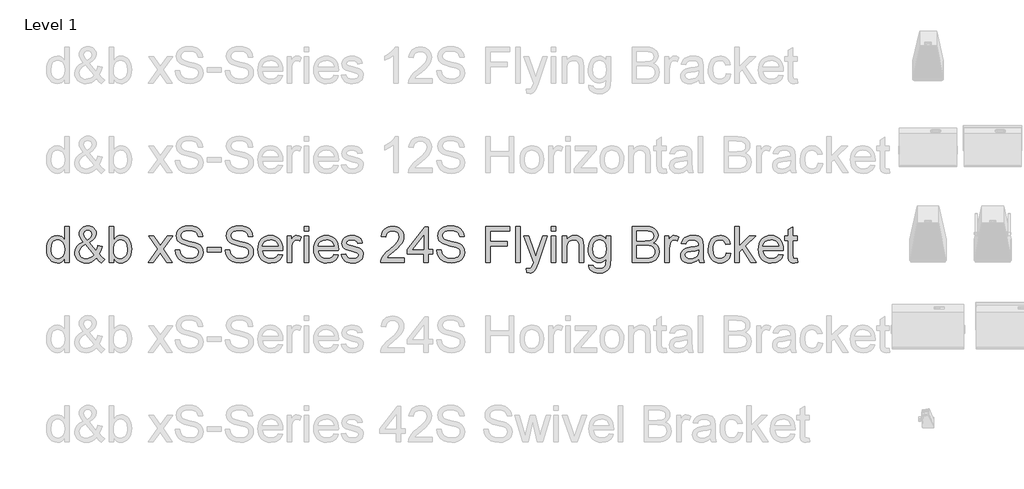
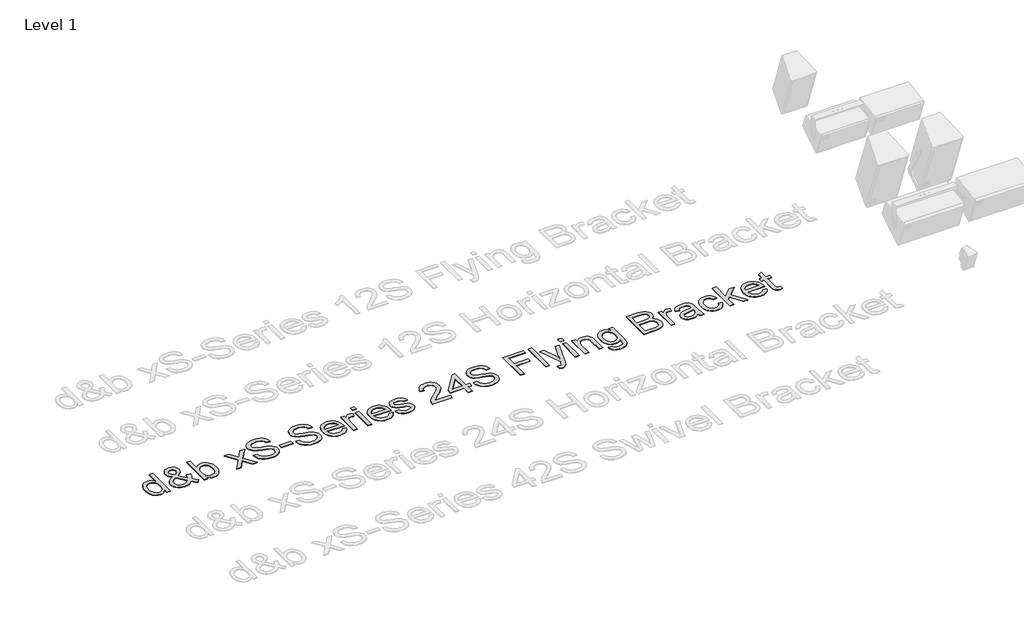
# One storey, part 32 of 55: 1 proxy.
"""IFC4 building model written with IfcOpenShell, lengths in millimetres."""

from ifc_helpers import new_model, si_unit, origin, origin_with_axes, place, context, project, spatial, polyline, outline, extrude, element, save

model = new_model("IFC4")

# Units and contexts
model_context = context("Model", 3, world=origin())
ifc_project = project(units=[si_unit("LENGTHUNIT", "METRE", prefix="MILLI")], contexts=[model_context])

# Site, building, storey
site = spatial("IfcSite", under=ifc_project)
building = spatial("IfcBuilding", under=site)
storey = spatial("IfcBuildingStorey", under=building, Name="Level 1", Elevation=0.0)

# Proxy
placement = place(None, origin())
element("IfcBuildingElementProxy", 1, Name="400mm Arial", ObjectType="400mm Arial", at=placement, inside=storey, context=model_context, shape_type="SweptSolid", body=[
    extrude(outline(polyline([(-20879.8211974, -3648.6945164), (-20879.8211974, -3601.3113154), (-20894.8491769, -3624.7883181), (-20913.0532043, -3641.5576057), (-20934.4332796, -3651.6191783), (-20958.9894028, -3654.9730358), (-20991.4611202, -3650.1169935), (-21021.1859854, -3635.5488665), (-21046.3491139, -3612.2864616), (-21065.1356211, -3581.3475858), (-21076.8342686, -3543.9830379), (-21080.7338177, -3501.4436165), (-21077.1408369, -3459.4314926), (-21066.3618944, -3421.4905962), (-21048.4092531, -3389.7791682), (-21023.2951755, -3366.4554497), (-20992.9203855, -3352.1080519), (-20959.1856065, -3347.325586), (-20934.6110892, -3350.7468885), (-20912.8815261, -3361.0107962), (-20894.4629008, -3376.7438829), (-20879.8211974, -3396.5727224), (-20879.8211974, -3246.8692758), (-20829.5930424, -3246.8692758), (-20829.5930424, -3648.6945164), (-20879.8211974, -3648.6945164)]), holes=[polyline([(-21030.5056627, -3501.2474128), (-21029.089317, -3525.6042665), (-21024.8402799, -3546.6808392), (-21017.7585515, -3564.4771307), (-21007.8441318, -3578.9931411), (-20983.1469871, -3598.3069458), (-20969.2717046, -3603.135397), (-20954.3786151, -3604.7448807), (-20939.415015, -3603.2089734), (-20925.6225058, -3598.6012514), (-20901.5507606, -3580.1703635), (-20892.0440767, -3566.2613584), (-20885.2535882, -3549.1088603), (-20879.8211974, -3505.0733855), (-20885.3516901, -3456.9298951), (-20892.2648059, -3438.3947739), (-20901.9431681, -3423.5507354), (-20913.6448812, -3412.1770504), (-20926.6280499, -3404.0529896), (-20940.8926743, -3399.1785532), (-20956.4387543, -3397.5537411), (-20971.6261493, -3399.1141738), (-20985.5014319, -3403.7954722), (-20998.064602, -3411.5976362), (-21009.3156597, -3422.5206658), (-21018.586286, -3436.8036843), (-21025.2081619, -3454.6858149), (-21030.5056627, -3501.2474128)])]), origin_with_axes(), (0.0, 0.0, 1.0), 5.0),
    extrude(outline(polyline([(-20523.809528, -3599.0549725), (-20549.3405384, -3623.5191252), (-20577.0788409, -3640.99352), (-20607.0734862, -3651.4781569), (-20639.3735254, -3654.9730358), (-20668.6814577, -3652.3855991), (-20694.8010793, -3644.623289), (-20717.7323904, -3631.6861055), (-20737.4753908, -3613.5740486), (-20750.308341, -3596.2038871), (-20759.4747341, -3577.8404442), (-20764.9745699, -3558.4837198), (-20766.8078485, -3538.1337141), (-20760.9094739, -3502.9396699), (-20743.2143499, -3471.3263438), (-20713.796053, -3443.3182613), (-20672.7281596, -3418.9399477), (-20694.6416638, -3390.5885086), (-20707.7995765, -3368.1231814), (-20714.3846642, -3348.9442668), (-20716.5796934, -3330.4520651), (-20714.8506481, -3312.8979626), (-20709.6635119, -3296.5333452), (-20701.018285, -3281.3582129), (-20688.9149674, -3267.3725657), (-20674.1935562, -3255.6555241), (-20657.6940487, -3247.2862088), (-20639.4164449, -3242.2646195), (-20619.3607448, -3240.5907564), (-20600.212487, -3242.1910431), (-20582.8913764, -3246.9919032), (-20567.397413, -3254.9933366), (-20553.7305969, -3266.1953433), (-20542.5715097, -3279.6414302), (-20534.6007332, -3294.3751041), (-20529.8182672, -3310.396365), (-20528.2241119, -3327.7052129), (-20532.9452642, -3355.68877), (-20547.108721, -3381.563137), (-20570.7144823, -3405.3283139), (-20603.7625482, -3426.9843007), (-20531.069066, -3517.5323224), (-20518.6837055, -3491.6579554), (-20509.3885538, -3461.9085647), (-20459.1603987, -3472.7978718), (-20474.6114425, -3519.3226815), (-20494.6732739, -3555.4977443), (-20466.1256311, -3588.8033276), (-20434.0463211, -3616.3209009), (-20471.7174374, -3654.9730358), (-20497.3465498, -3631.52669), (-20523.809528, -3599.0549725)]), holes=[polyline([(-20557.4584678, -3562.8553842), (-20647.1235727, -3450.9211558), (-20681.3733865, -3472.7733463), (-20702.305872, -3493.0068561), (-20713.0112381, -3512.3329235), (-20716.5796934, -3531.4627873), (-20711.6991256, -3555.1543878), (-20697.0574222, -3579.7289051), (-20686.2784798, -3590.6733944), (-20673.4639236, -3598.4908868), (-20658.6137537, -3603.1813823), (-20641.7279702, -3604.7448807), (-20619.0051256, -3601.8263502), (-20595.5710425, -3593.0707588), (-20574.1480476, -3579.6798541), (-20557.4584678, -3562.8553842)]), polyline([(-20629.1709314, -3395.2973981), (-20602.9041569, -3378.6323438), (-20587.8700461, -3364.1500559), (-20580.8067117, -3350.0601755), (-20578.452267, -3334.5723435), (-20581.5547385, -3317.0243723), (-20590.862153, -3303.0325938), (-20604.829406, -3293.8723321), (-20621.9113933, -3290.8189115), (-20639.3612626, -3293.8478066), (-20653.6473468, -3302.9344919), (-20663.1754905, -3316.3867102), (-20666.3515384, -3332.5122043), (-20662.0350563, -3350.9063041), (-20648.9875082, -3371.360543), (-20629.1709314, -3395.2973981)])]), origin_with_axes(), (0.0, 0.0, 1.0), 5.0),
    extrude(outline(polyline([(-20333.590011, -3648.6945164), (-20383.8181661, -3648.6945164), (-20383.8181661, -3246.8692758), (-20333.590011, -3246.8692758), (-20333.590011, -3395.8860093), (-20317.0721094, -3374.6408241), (-20298.4204923, -3359.4656918), (-20277.6351595, -3350.3606124), (-20254.7161112, -3347.325586), (-20228.8417442, -3350.0601755), (-20204.3898543, -3358.263944), (-20182.758393, -3371.4218567), (-20165.3453119, -3389.0188788), (-20151.6968898, -3410.883332), (-20141.3594058, -3436.8435381), (-20134.8478945, -3465.8203766), (-20132.6773907, -3496.734727), (-20134.9245365, -3532.4070178), (-20141.6659741, -3563.7873519), (-20152.9017034, -3590.8757295), (-20168.6317244, -3613.6721505), (-20187.5132678, -3631.7412878), (-20208.2035643, -3644.6478145), (-20230.702614, -3652.3917305), (-20255.0104168, -3654.9730358), (-20278.6836232, -3651.6437038), (-20299.671291, -3641.6557076), (-20317.9734203, -3625.0090473), (-20333.590011, -3601.7037229), (-20333.590011, -3648.6945164)]), holes=[polyline([(-20333.590011, -3499.0891717), (-20330.1564457, -3540.9786682), (-20319.8557498, -3569.3301073), (-20307.6849872, -3584.8240707), (-20293.5399244, -3595.8911874), (-20277.4205617, -3602.5314574), (-20259.3268989, -3604.7448807), (-20244.3050508, -3603.1139372), (-20230.3377977, -3598.2211067), (-20217.4251396, -3590.0663891), (-20205.5670767, -3578.6497845), (-20195.6526569, -3564.0019498), (-20188.5709285, -3546.1535416), (-20184.3218914, -3525.1045601), (-20182.9055458, -3500.8550053), (-20188.3379366, -3454.8942814), (-20195.1284251, -3437.1010555), (-20204.6351089, -3422.7659205), (-20216.0670419, -3411.735592), (-20228.6332778, -3403.8567859), (-20242.3338164, -3399.1295023), (-20257.1686579, -3397.5537411), (-20272.190506, -3399.1846846), (-20286.1577591, -3404.0775151), (-20299.0704171, -3412.2322327), (-20310.9284801, -3423.6488372), (-20320.8428999, -3438.1495192), (-20327.9246283, -3455.556469), (-20332.1736653, -3475.8696865), (-20333.590011, -3499.0891717)])]), origin_with_axes(), (0.0, 0.0, 1.0), 5.0),
    extrude(outline(polyline([(-19950.6003285, -3648.6945164), (-19843.2768878, -3500.2663941), (-19944.3218092, -3353.6041054), (-19884.0872638, -3353.6041054), (-19835.3306367, -3424.3355503), (-19812.4729021, -3457.5920827), (-19792.6563253, -3430.3197641), (-19737.1306695, -3353.6041054), (-19676.6999204, -3353.6041054), (-19782.8461387, -3500.364496), (-19680.623995, -3648.6945164), (-19740.9566422, -3648.6945164), (-19802.5646137, -3559.4218189), (-19813.7482263, -3543.0388074), (-19890.1695795, -3648.6945164), (-19950.6003285, -3648.6945164)])), origin_with_axes(), (0.0, 0.0, 1.0), 5.0),
    extrude(outline(polyline([(-19649.2313981, -3510.56709), (-19599.003243, -3510.56709), (-19593.2397584, -3538.4402825), (-19582.8164352, -3560.844296), (-19566.556051, -3578.6252591), (-19543.2813835, -3592.6293004), (-19514.8318425, -3601.7159856), (-19483.0468381, -3604.7448807), (-19455.063281, -3602.4517496), (-19430.5623402, -3595.5723563), (-19410.7089752, -3584.6830493), (-19396.6681457, -3570.3601769), (-19388.3172244, -3553.9158517), (-19385.533584, -3536.6621862), (-19387.6182486, -3519.849979), (-19393.8722425, -3505.3186402), (-19406.5764341, -3492.9210169), (-19428.0116917, -3482.5099565), (-19501.1466323, -3463.3310418), (-19549.1552327, -3450.639113), (-19579.8733793, -3438.5603208), (-19604.8770922, -3421.6622745), (-19622.5967416, -3401.1835101), (-19633.1549549, -3377.565486), (-19636.6743593, -3351.2496606), (-19632.3210891, -3321.8313637), (-19619.2612782, -3294.3996296), (-19597.8382834, -3271.1494875), (-19568.395461, -3254.2759667), (-19533.054264, -3244.012059), (-19493.9361452, -3240.5907564), (-19451.5561394, -3244.1714745), (-19414.4736342, -3254.9136288), (-19384.013005, -3272.59649), (-19361.4986269, -3296.999329), (-19347.249331, -3326.6015669), (-19341.5839483, -3359.8826247), (-19391.8121033, -3359.8826247), (-19401.0336787, -3329.9125049), (-19409.3968627, -3318.0544419), (-19420.2616443, -3308.2810436), (-19450.3053406, -3295.1844445), (-19491.9741079, -3290.8189115), (-19534.6238939, -3295.1353936), (-19550.9271976, -3300.5309962), (-19563.8827752, -3308.0848398), (-19580.805347, -3327.1411272), (-19586.4462043, -3349.7781326), (-19582.4485532, -3369.0796746), (-19570.4556002, -3384.6042948), (-19542.1041611, -3398.4857088), (-19488.4424407, -3412.6614283), (-19433.0639377, -3426.1259093), (-19399.5621507, -3437.8736077), (-19370.9286687, -3456.0960292), (-19350.9526764, -3478.5858819), (-19339.2172408, -3505.097911), (-19335.3054289, -3535.3868619), (-19339.805852, -3566.3502632), (-19353.3071212, -3595.4742545), (-19375.2574136, -3620.5392811), (-19405.1049061, -3639.3257883), (-19440.9979261, -3651.0612239), (-19481.0848008, -3654.9730358), (-19530.2951491, -3650.7546556), (-19570.7989567, -3638.099515), (-19603.0622077, -3616.958563), (-19627.5508858, -3587.2827487), (-19643.2717098, -3551.1322113), (-19649.2313981, -3510.56709)])), origin_with_axes(), (0.0, 0.0, 1.0), 5.0),
    extrude(outline(polyline([(-19291.3557932, -3529.4026481), (-19291.3557932, -3479.174493), (-19134.3928086, -3479.174493), (-19134.3928086, -3529.4026481), (-19291.3557932, -3529.4026481)])), origin_with_axes(), (0.0, 0.0, 1.0), 5.0),
    extrude(outline(polyline([(-19090.4431729, -3510.56709), (-19040.2150178, -3510.56709), (-19034.4515332, -3538.4402825), (-19024.02821, -3560.844296), (-19007.7678258, -3578.6252591), (-18984.4931583, -3592.6293004), (-18956.0436173, -3601.7159856), (-18924.2586129, -3604.7448807), (-18896.2750558, -3602.4517496), (-18871.774115, -3595.5723563), (-18851.9207499, -3584.6830493), (-18837.8799205, -3570.3601769), (-18829.5289992, -3553.9158517), (-18826.7453587, -3536.6621862), (-18828.8300234, -3519.849979), (-18835.0840173, -3505.3186402), (-18847.7882089, -3492.9210169), (-18869.2234665, -3482.5099565), (-18942.3584071, -3463.3310418), (-18990.3670075, -3450.639113), (-19021.0851541, -3438.5603208), (-19046.088867, -3421.6622745), (-19063.8085164, -3401.1835101), (-19074.3667297, -3377.565486), (-19077.8861341, -3351.2496606), (-19073.5328638, -3321.8313637), (-19060.473053, -3294.3996296), (-19039.0500582, -3271.1494875), (-19009.6072358, -3254.2759667), (-18974.2660388, -3244.012059), (-18935.14792, -3240.5907564), (-18892.7679141, -3244.1714745), (-18855.685409, -3254.9136288), (-18825.2247798, -3272.59649), (-18802.7104017, -3296.999329), (-18788.4611058, -3326.6015669), (-18782.7957231, -3359.8826247), (-18833.0238781, -3359.8826247), (-18842.2454535, -3329.9125049), (-18850.6086375, -3318.0544419), (-18861.4734191, -3308.2810436), (-18891.5171154, -3295.1844445), (-18933.1858827, -3290.8189115), (-18975.8356687, -3295.1353936), (-18992.1389724, -3300.5309962), (-19005.09455, -3308.0848398), (-19022.0171218, -3327.1411272), (-19027.657979, -3349.7781326), (-19023.660328, -3369.0796746), (-19011.667375, -3384.6042948), (-18983.3159359, -3398.4857088), (-18929.6542155, -3412.6614283), (-18874.2757125, -3426.1259093), (-18840.7739255, -3437.8736077), (-18812.1404435, -3456.0960292), (-18792.1644512, -3478.5858819), (-18780.4290156, -3505.097911), (-18776.5172037, -3535.3868619), (-18781.0176267, -3566.3502632), (-18794.518896, -3595.4742545), (-18816.4691883, -3620.5392811), (-18846.3166809, -3639.3257883), (-18882.2097009, -3651.0612239), (-18922.2965756, -3654.9730358), (-18971.5069238, -3650.7546556), (-19012.0107315, -3638.099515), (-19044.2739825, -3616.958563), (-19068.7626606, -3587.2827487), (-19084.4834846, -3551.1322113), (-19090.4431729, -3510.56709)])), origin_with_axes(), (0.0, 0.0, 1.0), 5.0),
    extrude(outline(polyline([(-18500.850962, -3560.795245), (-18451.6038255, -3567.0737644), (-18459.1546035, -3586.7983707), (-18469.3480004, -3604.180795), (-18482.1840164, -3619.2210372), (-18497.6626513, -3631.9190974), (-18515.6244897, -3642.0051955), (-18535.9101161, -3649.2095512), (-18583.4527326, -3654.9730358), (-18614.618469, -3652.4867667), (-18642.3874282, -3645.0279592), (-18666.7596104, -3632.5966135), (-18687.7350155, -3615.1927294), (-18704.602405, -3593.300685), (-18716.6505403, -3567.4048582), (-18723.8794215, -3537.5052491), (-18726.2890486, -3503.6018575), (-18723.8548961, -3468.5488348), (-18716.5524385, -3437.6528785), (-18704.3816758, -3410.9139888), (-18687.342608, -3388.3321657), (-18666.4223852, -3370.3917871), (-18642.6081574, -3357.5772309), (-18615.8999246, -3349.8884972), (-18586.2976867, -3347.325586), (-18557.6488763, -3349.8823658), (-18531.7407868, -3357.5527054), (-18508.5734182, -3370.3366048), (-18488.1467704, -3388.2340638), (-18471.472519, -3410.766836), (-18459.5623394, -3437.4566748), (-18452.4162316, -3468.3035801), (-18450.0341957, -3503.3075519), (-18450.3285013, -3516.8456094), (-18676.0608935, -3516.8456094), (-18673.1515601, -3536.8890467), (-18667.3666157, -3554.4431493), (-18658.7060604, -3569.507917), (-18647.1698942, -3582.0833498), (-18633.3957791, -3591.9977696), (-18618.0213774, -3599.079498), (-18582.4717139, -3604.7448807), (-18555.7389556, -3602.1206558), (-18533.2245775, -3594.2479811), (-18514.9285796, -3580.6363473), (-18500.850962, -3560.795245)]), holes=[polyline([(-18676.0608935, -3466.6174543), (-18500.2623508, -3466.6174543), (-18507.0559049, -3440.0808997), (-18520.3732332, -3421.0981887), (-18534.0707061, -3410.7974929), (-18549.65664, -3403.439853), (-18567.1310348, -3399.025269), (-18586.4938904, -3397.5537411), (-18620.3512967, -3402.2503679), (-18648.3471166, -3416.3402483), (-18667.8080741, -3438.3028034), (-18676.0608935, -3466.6174543)])]), origin_with_axes(), (0.0, 0.0, 1.0), 5.0),
    extrude(outline(polyline([(-18399.8060406, -3648.6945164), (-18399.8060406, -3353.6041054), (-18355.8564049, -3353.6041054), (-18355.8564049, -3397.2594355), (-18339.6205462, -3371.9491542), (-18324.6600117, -3357.0376707), (-18309.6504263, -3349.7536071), (-18293.2674148, -3347.325586), (-18268.2514391, -3351.2006097), (-18242.843056, -3362.8256807), (-18259.618475, -3407.8544369), (-18277.2768108, -3400.128915), (-18294.9351465, -3397.5537411), (-18309.9324692, -3400.0308132), (-18323.3356365, -3407.4620295), (-18334.1636299, -3419.2833042), (-18341.4354307, -3434.9305518), (-18347.5422718, -3462.9876853), (-18349.5778855, -3493.5954673), (-18349.5778855, -3648.6945164), (-18399.8060406, -3648.6945164)])), origin_with_axes(), (0.0, 0.0, 1.0), 5.0),
    extrude(outline(polyline([(-18211.4504591, -3297.0974309), (-18211.4504591, -3246.8692758), (-18161.222304, -3246.8692758), (-18161.222304, -3297.0974309), (-18211.4504591, -3297.0974309)])), origin_with_axes(), (0.0, 0.0, 1.0), 5.0),
    extrude(outline(polyline([(-18211.4504591, -3648.6945164), (-18211.4504591, -3353.6041054), (-18161.222304, -3353.6041054), (-18161.222304, -3648.6945164), (-18211.4504591, -3648.6945164)])), origin_with_axes(), (0.0, 0.0, 1.0), 5.0),
    extrude(outline(polyline([(-17879.2775429, -3560.795245), (-17830.0304065, -3567.0737644), (-17837.5811844, -3586.7983707), (-17847.7745814, -3604.180795), (-17860.6105973, -3619.2210372), (-17876.0892323, -3631.9190974), (-17894.0510707, -3642.0051955), (-17914.336697, -3649.2095512), (-17961.8793136, -3654.9730358), (-17993.0450499, -3652.4867667), (-18020.8140092, -3645.0279592), (-18045.1861914, -3632.5966135), (-18066.1615965, -3615.1927294), (-18083.0289859, -3593.300685), (-18095.0771213, -3567.4048582), (-18102.3060025, -3537.5052491), (-18104.7156295, -3503.6018575), (-18102.281477, -3468.5488348), (-18094.9790194, -3437.6528785), (-18082.8082567, -3410.9139888), (-18065.769189, -3388.3321657), (-18044.8489662, -3370.3917871), (-18021.0347384, -3357.5772309), (-17994.3265055, -3349.8884972), (-17964.7242676, -3347.325586), (-17936.0754573, -3349.8823658), (-17910.1673678, -3357.5527054), (-17886.9999991, -3370.3366048), (-17866.5733513, -3388.2340638), (-17849.8990999, -3410.766836), (-17837.9889203, -3437.4566748), (-17830.8428126, -3468.3035801), (-17828.4607766, -3503.3075519), (-17828.7550822, -3516.8456094), (-18054.4874745, -3516.8456094), (-18051.578141, -3536.8890467), (-18045.7931967, -3554.4431493), (-18037.1326413, -3569.507917), (-18025.5964751, -3582.0833498), (-18011.8223601, -3591.9977696), (-17996.4479584, -3599.079498), (-17960.8982949, -3604.7448807), (-17934.1655366, -3602.1206558), (-17911.6511585, -3594.2479811), (-17893.3551606, -3580.6363473), (-17879.2775429, -3560.795245)]), holes=[polyline([(-18054.4874745, -3466.6174543), (-17878.6889317, -3466.6174543), (-17885.4824859, -3440.0808997), (-17898.7998141, -3421.0981887), (-17912.4972871, -3410.7974929), (-17928.0832209, -3403.439853), (-17945.5576157, -3399.025269), (-17964.9204714, -3397.5537411), (-17998.7778777, -3402.2503679), (-18026.7736975, -3416.3402483), (-18046.234655, -3438.3028034), (-18054.4874745, -3466.6174543)])]), origin_with_axes(), (0.0, 0.0, 1.0), 5.0),
    extrude(outline(polyline([(-17797.0681797, -3560.795245), (-17746.8400246, -3554.5167257), (-17738.918299, -3576.0010342), (-17723.5898825, -3591.7954345), (-17700.7566734, -3601.5075192), (-17670.3205696, -3604.7448807), (-17640.2523479, -3601.7772993), (-17619.1113959, -3592.874555), (-17606.6034081, -3579.9741597), (-17602.4340788, -3565.0136253), (-17606.6279335, -3552.2113318), (-17619.2094978, -3542.4501962), (-17670.9091808, -3528.1273239), (-17746.545719, -3503.5528066), (-17765.6878455, -3491.2042343), (-17779.5569967, -3474.858011), (-17787.9814944, -3455.556469), (-17790.7896603, -3434.3419406), (-17788.5333174, -3414.880983), (-17781.7642887, -3396.9160789), (-17771.0957109, -3381.1584668), (-17757.1407205, -3368.3193852), (-17725.2085633, -3353.4569526), (-17704.3251287, -3348.8584276), (-17681.9946916, -3347.325586), (-17649.302245, -3349.7903953), (-17620.8772295, -3357.1848234), (-17598.0194949, -3368.785369), (-17582.0288908, -3383.8685308), (-17571.4338893, -3403.5502176), (-17564.7629625, -3428.946338), (-17614.9911176, -3435.2248574), (-17621.3309506, -3419.4181943), (-17633.8757267, -3407.5110804), (-17652.748073, -3400.0430759), (-17678.070617, -3397.5537411), (-17706.9125654, -3399.9327113), (-17726.140531, -3407.069622), (-17736.9562617, -3417.3703179), (-17740.5615053, -3429.2406436), (-17734.5772915, -3443.8578215), (-17715.8398352, -3454.9433323), (-17672.5769125, -3465.6364356), (-17598.8533607, -3489.2789852), (-17579.3801404, -3500.5852252), (-17564.6158097, -3516.0607944), (-17555.3083952, -3535.7547439), (-17552.2059237, -3559.7161245), (-17555.8479555, -3584.4868455), (-17566.7740507, -3607.7860386), (-17584.5672766, -3627.7865564), (-17608.8107, -3642.6612517), (-17638.0941069, -3651.8950898), (-17671.0072827, -3654.9730358), (-17698.040478, -3653.4892451), (-17721.6523707, -3649.037873), (-17741.8429609, -3641.6189194), (-17758.6122485, -3631.2323844), (-17772.3097214, -3617.9273189), (-17783.2848676, -3601.7527738), (-17791.5376871, -3582.7087492), (-17797.0681797, -3560.795245)])), origin_with_axes(), (0.0, 0.0, 1.0), 5.0),
    extrude(outline(polyline([(-17093.8740087, -3598.4663614), (-17093.8740087, -3648.6945164), (-17357.5718228, -3648.6945164), (-17356.4681768, -3631.0116552), (-17352.1762202, -3614.0645579), (-17339.778597, -3587.0007058), (-17321.6174891, -3560.7461941), (-17295.3629774, -3533.2654091), (-17258.6851425, -3502.522737), (-17204.4961246, -3454.3792466), (-17172.0121444, -3418.8418458), (-17155.7885485, -3389.9998974), (-17150.3806831, -3361.9427639), (-17155.4942429, -3336.7918982), (-17170.8349221, -3315.8839381), (-17194.4161579, -3301.7940577), (-17224.2513878, -3297.0974309), (-17255.582671, -3301.6836931), (-17279.9241964, -3315.4424797), (-17295.6327576, -3337.2946702), (-17301.0651483, -3366.1611441), (-17351.2933034, -3359.8826247), (-17346.9737557, -3333.9530755), (-17339.1164094, -3311.2976759), (-17327.7212646, -3291.9164261), (-17312.7883213, -3275.8093261), (-17294.6609359, -3263.1480541), (-17273.6824652, -3254.1042884), (-17249.8529089, -3248.678029), (-17223.1722672, -3246.8692758), (-17196.2525022, -3248.8803641), (-17172.2941873, -3254.9136288), (-17151.2973224, -3264.96907), (-17133.2619076, -3279.0466877), (-17118.7765541, -3296.1041495), (-17108.4298729, -3315.0991232), (-17102.2218643, -3336.0316087), (-17100.152528, -3358.9016061), (-17102.3843455, -3382.9243004), (-17109.0797978, -3406.5300617), (-17120.9623862, -3430.5404933), (-17138.7556121, -3455.7771982), (-17167.1193139, -3485.9067336), (-17210.7133303, -3524.5956567), (-17268.495329, -3572.9108254), (-17291.1568599, -3598.4663614), (-17093.8740087, -3598.4663614)])), origin_with_axes(), (0.0, 0.0, 1.0), 5.0),
    extrude(outline(polyline([(-16880.4043496, -3648.6945164), (-16880.4043496, -3554.5167257), (-17062.4814117, -3554.5167257), (-17062.4814117, -3504.2885706), (-16867.8473108, -3253.1477952), (-16830.1761945, -3253.1477952), (-16830.1761945, -3504.2885706), (-16779.9480394, -3504.2885706), (-16779.9480394, -3554.5167257), (-16830.1761945, -3554.5167257), (-16830.1761945, -3648.6945164), (-16880.4043496, -3648.6945164)]), holes=[polyline([(-16880.4043496, -3504.2885706), (-16880.4043496, -3349.0914196), (-17000.6772366, -3504.2885706), (-16880.4043496, -3504.2885706)])]), origin_with_axes(), (0.0, 0.0, 1.0), 5.0),
    extrude(outline(polyline([(-16735.9984038, -3510.56709), (-16685.7702487, -3510.56709), (-16680.0067641, -3538.4402825), (-16669.5834409, -3560.844296), (-16653.3230567, -3578.6252591), (-16630.0483891, -3592.6293004), (-16601.5988482, -3601.7159856), (-16569.8138438, -3604.7448807), (-16541.8302867, -3602.4517496), (-16517.3293458, -3595.5723563), (-16497.4759808, -3584.6830493), (-16483.4351513, -3570.3601769), (-16475.08423, -3553.9158517), (-16472.3005896, -3536.6621862), (-16474.3852543, -3519.849979), (-16480.6392482, -3505.3186402), (-16493.3434397, -3492.9210169), (-16514.7786973, -3482.5099565), (-16587.913638, -3463.3310418), (-16635.9222383, -3450.639113), (-16666.6403849, -3438.5603208), (-16691.6440979, -3421.6622745), (-16709.3637473, -3401.1835101), (-16719.9219606, -3377.565486), (-16723.441365, -3351.2496606), (-16719.0880947, -3321.8313637), (-16706.0282839, -3294.3996296), (-16684.605289, -3271.1494875), (-16655.1624667, -3254.2759667), (-16619.8212697, -3244.012059), (-16580.7031509, -3240.5907564), (-16538.323145, -3244.1714745), (-16501.2406399, -3254.9136288), (-16470.7800107, -3272.59649), (-16448.2656326, -3296.999329), (-16434.0163367, -3326.6015669), (-16428.3509539, -3359.8826247), (-16478.579109, -3359.8826247), (-16487.8006843, -3329.9125049), (-16496.1638684, -3318.0544419), (-16507.02865, -3308.2810436), (-16537.0723462, -3295.1844445), (-16578.7411136, -3290.8189115), (-16621.3908995, -3295.1353936), (-16637.6942033, -3300.5309962), (-16650.6497809, -3308.0848398), (-16667.5723527, -3327.1411272), (-16673.2132099, -3349.7781326), (-16669.2155589, -3369.0796746), (-16657.2226059, -3384.6042948), (-16628.8711668, -3398.4857088), (-16575.2094464, -3412.6614283), (-16519.8309434, -3426.1259093), (-16486.3291564, -3437.8736077), (-16457.6956744, -3456.0960292), (-16437.7196821, -3478.5858819), (-16425.9842464, -3505.097911), (-16422.0724345, -3535.3868619), (-16426.5728576, -3566.3502632), (-16440.0741268, -3595.4742545), (-16462.0244192, -3620.5392811), (-16491.8719118, -3639.3257883), (-16527.7649318, -3651.0612239), (-16567.8518065, -3654.9730358), (-16617.0621547, -3650.7546556), (-16657.5659624, -3638.099515), (-16689.8292134, -3616.958563), (-16714.3178915, -3587.2827487), (-16730.0387154, -3551.1322113), (-16735.9984038, -3510.56709)])), origin_with_axes(), (0.0, 0.0, 1.0), 5.0),
    extrude(outline(polyline([(-16189.7672173, -3648.6945164), (-16189.7672173, -3246.8692758), (-15919.7908838, -3246.8692758), (-15919.7908838, -3297.0974309), (-16139.5390622, -3297.0974309), (-16139.5390622, -3416.3892992), (-15951.1834807, -3416.3892992), (-15951.1834807, -3466.6174543), (-16139.5390622, -3466.6174543), (-16139.5390622, -3648.6945164), (-16189.7672173, -3648.6945164)])), origin_with_axes(), (0.0, 0.0, 1.0), 5.0),
    extrude(outline(polyline([(-15857.0056899, -3648.6945164), (-15857.0056899, -3246.8692758), (-15806.7775349, -3246.8692758), (-15806.7775349, -3648.6945164), (-15857.0056899, -3648.6945164)])), origin_with_axes(), (0.0, 0.0, 1.0), 5.0),
    extrude(outline(polyline([(-15731.4353023, -3761.7078653), (-15737.7138216, -3713.3436457), (-15712.2073366, -3717.7582297), (-15698.7919066, -3716.3725408), (-15688.3685834, -3712.2154743), (-15673.7514054, -3696.7644305), (-15660.0171443, -3659.7800272), (-15656.0930696, -3647.6153959), (-15762.8278992, -3353.6041054), (-15709.9509937, -3353.6041054), (-15653.2481156, -3517.5323224), (-15633.5296406, -3583.0643685), (-15613.8111657, -3525.086166), (-15555.6367595, -3353.6041054), (-15503.1522615, -3353.6041054), (-15605.8649146, -3655.7578507), (-15632.548622, -3721.2898968), (-15646.2093067, -3742.2101196), (-15661.684876, -3756.7046702), (-15679.6375173, -3765.1659561), (-15700.7294184, -3767.9863847), (-15731.4353023, -3761.7078653)])), origin_with_axes(), (0.0, 0.0, 1.0), 5.0),
    extrude(outline(polyline([(-15461.4589687, -3297.0974309), (-15461.4589687, -3246.8692758), (-15411.2308137, -3246.8692758), (-15411.2308137, -3297.0974309), (-15461.4589687, -3297.0974309)])), origin_with_axes(), (0.0, 0.0, 1.0), 5.0),
    extrude(outline(polyline([(-15461.4589687, -3648.6945164), (-15461.4589687, -3353.6041054), (-15411.2308137, -3353.6041054), (-15411.2308137, -3648.6945164), (-15461.4589687, -3648.6945164)])), origin_with_axes(), (0.0, 0.0, 1.0), 5.0),
    extrude(outline(polyline([(-15335.888581, -3648.6945164), (-15335.888581, -3353.6041054), (-15285.660426, -3353.6041054), (-15285.660426, -3394.8068888), (-15268.2105567, -3374.0338188), (-15247.2535457, -3359.1959117), (-15222.789393, -3350.2931674), (-15194.8180986, -3347.325586), (-15170.0596404, -3349.7168189), (-15147.3858467, -3356.8905179), (-15128.4767122, -3367.9515032), (-15115.0122311, -3382.0045954), (-15105.8764949, -3399.0130063), (-15099.9535948, -3418.9399477), (-15097.3048444, -3467.5003711), (-15097.3048444, -3648.6945164), (-15147.5329995, -3648.6945164), (-15147.5329995, -3474.2693998), (-15148.980002, -3448.2969309), (-15153.3210096, -3429.8292548), (-15161.3285743, -3416.5977657), (-15173.7752485, -3406.333858), (-15189.7290644, -3399.7487703), (-15208.2580542, -3397.5537411), (-15237.6763511, -3402.4833598), (-15262.7536404, -3417.272216), (-15272.7753591, -3429.3448768), (-15279.9337296, -3445.8443843), (-15284.2287519, -3466.7707384), (-15285.660426, -3492.1239393), (-15285.660426, -3648.6945164), (-15335.888581, -3648.6945164)])), origin_with_axes(), (0.0, 0.0, 1.0), 5.0),
    extrude(outline(polyline([(-15040.79817, -3673.808594), (-14990.5700149, -3680.0871133), (-14985.0272595, -3695.7834118), (-14974.2851053, -3706.574617), (-14953.1686787, -3714.9623265), (-14925.5284782, -3717.7582297), (-14896.0488676, -3714.5944445), (-14874.1231007, -3705.103089), (-14858.9173116, -3689.8972999), (-14849.5976344, -3669.5902138), (-14846.1640691, -3611.0234001), (-14862.8781744, -3627.5045135), (-14881.5297915, -3639.2767374), (-14902.1189205, -3646.3400717), (-14924.6455614, -3648.6945164), (-14952.1845944, -3645.9537956), (-14976.4310836, -3637.731633), (-14997.3850289, -3624.0280287), (-15015.0464303, -3604.8429826), (-15029.0596687, -3581.8258324), (-15039.0691246, -3556.6259158), (-15045.0747982, -3529.2432326), (-15047.0766894, -3499.6777829), (-15043.4837085, -3459.1249243), (-15032.7047661, -3421.8339527), (-15015.1200067, -3390.2328893), (-14991.1095752, -3366.7497553), (-14961.4950746, -3352.1816283), (-14927.098108, -3347.325586), (-14903.6088426, -3350.0724382), (-14882.290081, -3358.3129949), (-14863.1418231, -3372.0472561), (-14846.1640691, -3391.2752217), (-14846.1640691, -3353.6041054), (-14795.935914, -3353.6041054), (-14795.935914, -3608.3746498), (-14799.3694793, -3667.1989808), (-14809.6701751, -3705.9369549), (-14827.41435, -3731.6273809), (-14853.1783524, -3751.3090676), (-14886.3980966, -3763.8170555), (-14926.5094968, -3767.9863847), (-14951.1177366, -3766.5179224), (-14973.2427729, -3762.1125355), (-14992.8846058, -3754.7702241), (-15010.0432352, -3744.490988), (-15023.9031894, -3731.2625646), (-15033.6489965, -3715.0726911), (-15039.2806568, -3695.9213676), (-15040.79817, -3673.808594)]), holes=[polyline([(-14996.8485343, -3496.2442176), (-14991.4897199, -3542.3153062), (-14984.7912019, -3559.9521821), (-14975.4132767, -3573.9899459), (-14964.0120005, -3584.6983777), (-14951.2434296, -3592.3472575), (-14937.107564, -3596.9365854), (-14921.6044035, -3598.4663614), (-14906.2545273, -3596.9457824), (-14892.1861067, -3592.3840457), (-14879.3991416, -3584.7811511), (-14867.8936322, -3574.1370987), (-14858.3869484, -3560.2372907), (-14851.5964599, -3542.8671291), (-14846.1640691, -3497.7157456), (-14851.7558754, -3454.1707801), (-14858.7456333, -3436.9692312), (-14868.5312944, -3422.8149714), (-14880.2851241, -3411.7631831), (-14893.1793881, -3403.8690486), (-14907.2140862, -3399.1325679), (-14922.3892185, -3397.5537411), (-14937.3098991, -3399.1080425), (-14951.0717514, -3403.7709468), (-14975.1189711, -3422.4225639), (-14984.625655, -3436.3622259), (-14991.4161435, -3453.3123888), (-14996.8485343, -3496.2442176)])]), origin_with_axes(), (0.0, 0.0, 1.0), 5.0),
    extrude(outline(polyline([(-14557.3521774, -3648.6945164), (-14557.3521774, -3246.8692758), (-14404.0189618, -3246.8692758), (-14361.8474224, -3249.8245945), (-14328.9219838, -3258.6905506), (-14303.685279, -3273.6878733), (-14284.5799407, -3295.0372917), (-14272.5501995, -3320.1513693), (-14268.5402857, -3346.4426692), (-14271.9125373, -3370.6370417), (-14282.0292922, -3393.3844118), (-14298.9641267, -3413.2868277), (-14322.7906173, -3428.946338), (-14294.3288136, -3443.8087706), (-14273.2982262, -3466.4212506), (-14260.3119917, -3495.2877244), (-14255.9832469, -3528.9121388), (-14258.9385656, -3556.9324841), (-14267.8045217, -3582.9172157), (-14281.0360108, -3605.0146609), (-14297.0879285, -3621.3731469), (-14316.7450898, -3633.2189472), (-14340.7923096, -3641.7783349), (-14370.0144027, -3646.9654711), (-14405.1961842, -3648.6945164), (-14557.3521774, -3648.6945164)]), holes=[polyline([(-14507.1240223, -3598.4663614), (-14404.1170637, -3598.4663614), (-14366.8383548, -3596.504324), (-14335.2986051, -3585.5659661), (-14323.722585, -3576.1359242), (-14314.4029078, -3563.2477917), (-14308.2592785, -3547.4779168), (-14306.211402, -3529.4026481), (-14308.6148977, -3508.4088489), (-14315.8253848, -3490.3581057), (-14328.4192118, -3476.2436998), (-14346.9727271, -3467.0589127), (-14373.2517643, -3462.0189293), (-14409.0221569, -3460.3389349), (-14507.1240223, -3460.3389349), (-14507.1240223, -3598.4663614)]), polyline([(-14507.1240223, -3410.1107798), (-14415.3987782, -3410.1107798), (-14361.8351597, -3405.7942977), (-14343.0854407, -3398.3508187), (-14329.6086969, -3387.2039943), (-14321.4785048, -3372.5255026), (-14318.7684408, -3354.4870222), (-14321.2945638, -3336.9758392), (-14328.8729329, -3321.7209991), (-14341.1601916, -3309.8138852), (-14357.8129832, -3302.3458807), (-14383.3685191, -3298.4095434), (-14422.3640106, -3297.0974309), (-14507.1240223, -3297.0974309), (-14507.1240223, -3410.1107798)])]), origin_with_axes(), (0.0, 0.0, 1.0), 5.0),
    extrude(outline(polyline([(-14193.1980531, -3648.6945164), (-14193.1980531, -3353.6041054), (-14149.2484174, -3353.6041054), (-14149.2484174, -3397.2594355), (-14133.0125587, -3371.9491542), (-14118.0520242, -3357.0376707), (-14103.0424388, -3349.7536071), (-14086.6594273, -3347.325586), (-14061.6434516, -3351.2006097), (-14036.2350685, -3362.8256807), (-14053.0104875, -3407.8544369), (-14070.6688232, -3400.128915), (-14088.327159, -3397.5537411), (-14103.3244817, -3400.0308132), (-14116.727649, -3407.4620295), (-14127.5556424, -3419.2833042), (-14134.8274432, -3434.9305518), (-14140.9342843, -3462.9876853), (-14142.969898, -3493.5954673), (-14142.969898, -3648.6945164), (-14193.1980531, -3648.6945164)])), origin_with_axes(), (0.0, 0.0, 1.0), 5.0),
    extrude(outline(polyline([(-13816.48689, -3611.0234001), (-13840.4850589, -3631.6002664), (-13865.1944662, -3645.0647474), (-13891.1791978, -3652.4959637), (-13919.0033394, -3654.9730358), (-13941.367499, -3653.4831137), (-13960.978675, -3649.0133475), (-13977.8368674, -3641.5637371), (-13991.9420763, -3631.1342825), (-14003.0797037, -3618.3871714), (-14011.0351518, -3603.9845913), (-14015.8084207, -3587.9265422), (-14017.3995103, -3570.2130241), (-14014.9960146, -3549.3909032), (-14007.7855275, -3530.4817686), (-13996.6632285, -3514.2949609), (-13982.5242972, -3501.6398202), (-13965.9082937, -3492.0748883), (-13947.3547785, -3485.1587068), (-13903.8956521, -3477.6048632), (-13852.5393256, -3469.6586121), (-13816.7811956, -3460.3389349), (-13816.48689, -3449.1553222), (-13819.9449808, -3426.739046), (-13830.3192531, -3412.0728171), (-13853.5203442, -3401.1835101), (-13885.8449089, -3397.5537411), (-13915.7659778, -3399.9694995), (-13936.6616751, -3407.2167748), (-13950.9109711, -3420.6199422), (-13960.8928359, -3441.5033767), (-14011.1209909, -3435.2248574), (-14002.4021877, -3407.7563351), (-13989.3914278, -3386.1739247), (-13970.8747007, -3369.6682858), (-13945.6379958, -3357.4300781), (-13914.7726964, -3349.851709), (-13879.3701857, -3347.325586), (-13845.4146776, -3349.5574034), (-13818.4979783, -3356.2528557), (-13798.2031549, -3366.3205597), (-13784.1132745, -3378.669132), (-13774.7690718, -3393.9362348), (-13768.7112816, -3412.7595302), (-13766.258735, -3456.7091659), (-13766.258735, -3519.2000541), (-13763.7080865, -3606.4616634), (-13753.7016962, -3648.6945164), (-13803.9298513, -3648.6945164), (-13811.9742042, -3631.2323844), (-13816.48689, -3611.0234001)]), holes=[polyline([(-13816.48689, -3510.56709), (-13850.2339317, -3518.930274), (-13897.5190308, -3525.9690828), (-13940.7329025, -3534.1115377), (-13951.9778289, -3539.6788185), (-13960.3042247, -3547.3552895), (-13965.4545726, -3556.5523394), (-13967.1713553, -3566.681357), (-13963.4312216, -3581.617366), (-13952.2108208, -3593.8555737), (-13933.7554074, -3602.022554), (-13908.310236, -3604.7448807), (-13881.3322231, -3601.7405111), (-13857.4934698, -3592.7274022), (-13838.1674023, -3579.4468622), (-13824.7274467, -3563.6401991), (-13818.7677584, -3547.3552895), (-13816.7811956, -3524.7918605), (-13816.48689, -3510.56709)])]), origin_with_axes(), (0.0, 0.0, 1.0), 5.0),
    extrude(outline(polyline([(-13508.8394402, -3541.9596869), (-13458.6112851, -3548.2382063), (-13464.0743328, -3571.9390038), (-13472.6153264, -3592.9113432), (-13484.2342661, -3611.1552245), (-13498.9311518, -3626.6706476), (-13516.0867155, -3639.0529425), (-13535.0816892, -3647.8974388), (-13555.9160729, -3653.2041366), (-13578.5898665, -3654.9730358), (-13606.7604303, -3652.5051608), (-13632.0185949, -3645.1015356), (-13654.3643604, -3632.7621604), (-13673.7977268, -3615.487035), (-13689.5277478, -3593.601122), (-13700.7634771, -3567.4293837), (-13707.5049146, -3536.9718202), (-13709.7520605, -3502.2284314), (-13705.913825, -3457.530769), (-13694.3991186, -3418.7927949), (-13675.0240002, -3387.5105626), (-13647.6045288, -3365.1801255), (-13614.8017175, -3351.7892209), (-13579.2765795, -3347.325586), (-13556.9921277, -3348.8584276), (-13536.83526, -3353.4569526), (-13518.8059766, -3361.1211608), (-13502.9042773, -3371.8510523), (-13489.3999424, -3385.4013725), (-13478.562752, -3401.5268666), (-13470.392706, -3420.2275347), (-13464.8898045, -3441.5033767), (-13515.1179596, -3447.7818961), (-13524.2291703, -3425.8683919), (-13538.4171526, -3410.1598308), (-13556.8970915, -3400.7052635), (-13578.8841721, -3397.5537411), (-13595.950831, -3399.1049768), (-13611.3436268, -3403.758684), (-13625.0625595, -3411.5148628), (-13637.1076292, -3422.373513), (-13646.91475, -3436.5860207), (-13653.9198364, -3454.403772), (-13658.1228882, -3475.8267669), (-13659.5239054, -3500.8550053), (-13654.0424637, -3547.9316379), (-13647.1906615, -3565.8689509), (-13637.5981385, -3580.0722616), (-13625.7921922, -3590.8665325), (-13612.30012, -3598.576726), (-13597.121922, -3603.202842), (-13580.2575982, -3604.7448807), (-13554.2483411, -3600.8943825), (-13532.9234482, -3589.3428879), (-13517.4110907, -3569.7960912), (-13508.8394402, -3541.9596869)])), origin_with_axes(), (0.0, 0.0, 1.0), 5.0),
    extrude(outline(polyline([(-13414.6616494, -3648.6945164), (-13414.6616494, -3246.8692758), (-13364.4334944, -3246.8692758), (-13364.4334944, -3462.7914815), (-13251.8125529, -3353.6041054), (-13182.3564322, -3353.6041054), (-13296.4489017, -3464.1649076), (-13176.0779128, -3648.6945164), (-13234.7428283, -3648.6945164), (-13332.4522862, -3499.0891717), (-13364.4334944, -3530.187463), (-13364.4334944, -3648.6945164), (-13414.6616494, -3648.6945164)])), origin_with_axes(), (0.0, 0.0, 1.0), 5.0),
    extrude(outline(polyline([(-12925.5257486, -3560.795245), (-12876.2786122, -3567.0737644), (-12883.8293902, -3586.7983707), (-12894.0227871, -3604.180795), (-12906.8588031, -3619.2210372), (-12922.337438, -3631.9190974), (-12940.2992764, -3642.0051955), (-12960.5849028, -3649.2095512), (-13008.1275193, -3654.9730358), (-13039.2932557, -3652.4867667), (-13067.0622149, -3645.0279592), (-13091.4343971, -3632.5966135), (-13112.4098022, -3615.1927294), (-13129.2771917, -3593.300685), (-13141.325327, -3567.4048582), (-13148.5542082, -3537.5052491), (-13150.9638353, -3503.6018575), (-13148.5296828, -3468.5488348), (-13141.2272252, -3437.6528785), (-13129.0564625, -3410.9139888), (-13112.0173947, -3388.3321657), (-13091.0971719, -3370.3917871), (-13067.2829441, -3357.5772309), (-13040.5747113, -3349.8884972), (-13010.9724734, -3347.325586), (-12982.323663, -3349.8823658), (-12956.4155735, -3357.5527054), (-12933.2482049, -3370.3366048), (-12912.8215571, -3388.2340638), (-12896.1473057, -3410.766836), (-12884.2371261, -3437.4566748), (-12877.0910183, -3468.3035801), (-12874.7089824, -3503.3075519), (-12875.003288, -3516.8456094), (-13100.7356802, -3516.8456094), (-13097.8263468, -3536.8890467), (-13092.0414024, -3554.4431493), (-13083.3808471, -3569.507917), (-13071.8446809, -3582.0833498), (-13058.0705658, -3591.9977696), (-13042.6961641, -3599.079498), (-13007.1465006, -3604.7448807), (-12980.4137423, -3602.1206558), (-12957.8993642, -3594.2479811), (-12939.6033663, -3580.6363473), (-12925.5257486, -3560.795245)]), holes=[polyline([(-13100.7356802, -3466.6174543), (-12924.9371375, -3466.6174543), (-12931.7306916, -3440.0808997), (-12945.0480199, -3421.0981887), (-12958.7454928, -3410.7974929), (-12974.3314267, -3403.439853), (-12991.8058214, -3399.025269), (-13011.1686771, -3397.5537411), (-13045.0260834, -3402.2503679), (-13073.0219032, -3416.3402483), (-13092.4828608, -3438.3028034), (-13100.7356802, -3466.6174543)])]), origin_with_axes(), (0.0, 0.0, 1.0), 5.0),
    extrude(outline(polyline([(-12717.7459978, -3606.8050199), (-12711.4674784, -3650.1660444), (-12749.0404928, -3654.9730358), (-12773.1490262, -3652.8883712), (-12791.1261931, -3646.6343773), (-12803.8303846, -3636.995869), (-12812.1199923, -3624.7576613), (-12816.681729, -3603.7393366), (-12818.2023079, -3567.7604775), (-12818.2023079, -3403.8322604), (-12855.8734242, -3403.8322604), (-12855.8734242, -3353.6041054), (-12818.2023079, -3353.6041054), (-12818.2023079, -3281.8916418), (-12767.9741528, -3252.3629803), (-12767.9741528, -3353.6041054), (-12717.7459978, -3353.6041054), (-12717.7459978, -3403.8322604), (-12767.9741528, -3403.8322604), (-12767.9741528, -3566.2889495), (-12765.3254025, -3592.187842), (-12756.7414893, -3601.3603664), (-12739.6227138, -3604.7448807), (-12717.7459978, -3606.8050199)])), origin_with_axes(), (0.0, 0.0, 1.0), 5.0),
])

save(model, "model.ifc")
